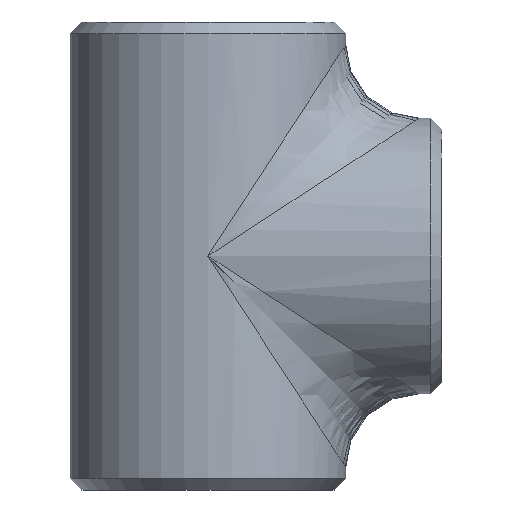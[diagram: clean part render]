
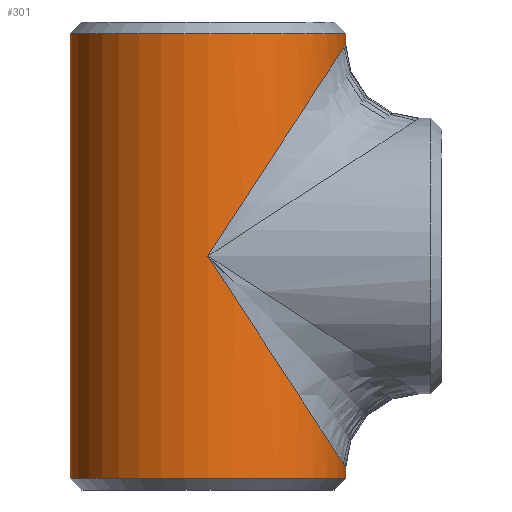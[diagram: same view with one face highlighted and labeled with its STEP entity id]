
A CAD part, front view. The second image highlights one B-rep face of the part: STEP entity #301.
In plain terms, the highlighted cylindrical face has radius 84.15 mm (diameter 168.3 mm), a partial arc.
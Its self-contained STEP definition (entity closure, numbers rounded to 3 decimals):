
#39 = CARTESIAN_POINT ( 'NONE',  ( 84.15, -49.294, -129.15 ) ) ;
#41 = VECTOR ( 'NONE', #403, 1000. ) ;
#50 = CARTESIAN_POINT ( 'NONE',  ( -84.15, 0., 142.9 ) ) ;
#57 = DIRECTION ( 'NONE',  ( 0., 0., -1. ) ) ;
#75 = CARTESIAN_POINT ( 'NONE',  ( 84.15, 0., 142.9 ) ) ;
#131 = CARTESIAN_POINT ( 'NONE',  ( 84.15, 0., -129.15 ) ) ;
#141 = CARTESIAN_POINT ( 'NONE',  ( -84.15, 0., -135.84 ) ) ;
#145 = ORIENTED_EDGE ( 'NONE', *, *, #1207, .T. ) ;
#158 = DIRECTION ( 'NONE',  ( 0., 0., -1. ) ) ;
#163 = VECTOR ( 'NONE', #158, 1000. ) ;
#173 = DIRECTION ( 'NONE',  ( 1., 0., 0. ) ) ;
#179 = CARTESIAN_POINT ( 'NONE',  ( -84.15, 0., 135.84 ) ) ;
#184 = CARTESIAN_POINT ( 'NONE',  ( 0., -84.15, 0. ) ) ;
#239 = VECTOR ( 'NONE', #1443, 1000. ) ;
#287 = CARTESIAN_POINT ( 'NONE',  ( 0., 0., -135.84 ) ) ;
#289 = CARTESIAN_POINT ( 'NONE',  ( 84.15, 0., 129.15 ) ) ;
#301 = ADVANCED_FACE ( 'NONE', ( #705 ), #716, .T. ) ;
#325 = EDGE_CURVE ( 'NONE', #479, #1387, #340, .T. ) ;
#328 = AXIS2_PLACEMENT_3D ( 'NONE', #1304, #948, #594 ) ;
#340 =( BOUNDED_CURVE ( )  B_SPLINE_CURVE ( 3, ( #131, #39, #1048, #819 ),
 .UNSPECIFIED., .F., .T. ) 
 B_SPLINE_CURVE_WITH_KNOTS ( ( 4, 4 ),
 ( 3.142, 4.712 ),
 .UNSPECIFIED. ) 
 CURVE ( )  GEOMETRIC_REPRESENTATION_ITEM ( )  RATIONAL_B_SPLINE_CURVE ( ( 1., 0.805, 0.805, 1. ) ) 
 REPRESENTATION_ITEM ( '' )  );
#374 = VERTEX_POINT ( 'NONE', #141 ) ;
#398 = ORIENTED_EDGE ( 'NONE', *, *, #1130, .T. ) ;
#403 = DIRECTION ( 'NONE',  ( 0., 0., -1. ) ) ;
#412 = ORIENTED_EDGE ( 'NONE', *, *, #325, .T. ) ;
#421 = CARTESIAN_POINT ( 'NONE',  ( 84.15, -49.294, 129.15 ) ) ;
#438 = ORIENTED_EDGE ( 'NONE', *, *, #454, .F. ) ;
#454 = EDGE_CURVE ( 'NONE', #479, #548, #1433, .T. ) ;
#479 = VERTEX_POINT ( 'NONE', #884 ) ;
#480 = EDGE_CURVE ( 'NONE', #374, #548, #1472, .T. ) ;
#495 = ORIENTED_EDGE ( 'NONE', *, *, #480, .T. ) ;
#548 = VERTEX_POINT ( 'NONE', #868 ) ;
#567 = CARTESIAN_POINT ( 'NONE',  ( 84.15, 0., 129.15 ) ) ;
#594 = DIRECTION ( 'NONE',  ( -1., 0., 0. ) ) ;
#618 = ORIENTED_EDGE ( 'NONE', *, *, #718, .F. ) ;
#638 = VERTEX_POINT ( 'NONE', #179 ) ;
#705 = FACE_OUTER_BOUND ( 'NONE', #896, .T. ) ;
#710 = ORIENTED_EDGE ( 'NONE', *, *, #1180, .T. ) ;
#716 = CYLINDRICAL_SURFACE ( 'NONE', #328, 84.15 ) ;
#718 = EDGE_CURVE ( 'NONE', #816, #1404, #1211, .T. ) ;
#739 = DIRECTION ( 'NONE',  ( 0., 0., 1. ) ) ;
#748 = CARTESIAN_POINT ( 'NONE',  ( 0., 0., 135.84 ) ) ;
#789 = CARTESIAN_POINT ( 'NONE',  ( 0., -84.15, 0. ) ) ;
#816 = VERTEX_POINT ( 'NONE', #1342 ) ;
#819 = CARTESIAN_POINT ( 'NONE',  ( 0., -84.15, 0. ) ) ;
#832 = LINE ( 'NONE', #50, #163 ) ;
#851 = CIRCLE ( 'NONE', #903, 84.15 ) ;
#868 = CARTESIAN_POINT ( 'NONE',  ( 84.15, 0., -135.84 ) ) ;
#884 = CARTESIAN_POINT ( 'NONE',  ( 84.15, 0., -129.15 ) ) ;
#892 =( BOUNDED_CURVE ( )  B_SPLINE_CURVE ( 3, ( #184, #1332, #421, #289 ),
 .UNSPECIFIED., .F., .F. ) 
 B_SPLINE_CURVE_WITH_KNOTS ( ( 4, 4 ),
 ( 1.571, 3.142 ),
 .UNSPECIFIED. ) 
 CURVE ( )  GEOMETRIC_REPRESENTATION_ITEM ( )  RATIONAL_B_SPLINE_CURVE ( ( 1., 0.805, 0.805, 1. ) ) 
 REPRESENTATION_ITEM ( '' )  );
#896 = EDGE_LOOP ( 'NONE', ( #618, #710, #398, #495, #438, #412, #145 ) ) ;
#903 = AXIS2_PLACEMENT_3D ( 'NONE', #748, #57, #1306 ) ;
#948 = DIRECTION ( 'NONE',  ( 0., 0., -1. ) ) ;
#997 = AXIS2_PLACEMENT_3D ( 'NONE', #287, #739, #173 ) ;
#1048 = CARTESIAN_POINT ( 'NONE',  ( 49.294, -84.15, -75.654 ) ) ;
#1130 = EDGE_CURVE ( 'NONE', #638, #374, #832, .T. ) ;
#1180 = EDGE_CURVE ( 'NONE', #816, #638, #851, .T. ) ;
#1207 = EDGE_CURVE ( 'NONE', #1387, #1404, #892, .T. ) ;
#1211 = LINE ( 'NONE', #75, #239 ) ;
#1304 = CARTESIAN_POINT ( 'NONE',  ( 0., 0., 142.9 ) ) ;
#1306 = DIRECTION ( 'NONE',  ( 1., 0., 0. ) ) ;
#1313 = CARTESIAN_POINT ( 'NONE',  ( 84.15, 0., 142.9 ) ) ;
#1332 = CARTESIAN_POINT ( 'NONE',  ( 49.294, -84.15, 75.654 ) ) ;
#1342 = CARTESIAN_POINT ( 'NONE',  ( 84.15, 0., 135.84 ) ) ;
#1387 = VERTEX_POINT ( 'NONE', #789 ) ;
#1404 = VERTEX_POINT ( 'NONE', #567 ) ;
#1433 = LINE ( 'NONE', #1313, #41 ) ;
#1443 = DIRECTION ( 'NONE',  ( 0., 0., -1. ) ) ;
#1472 = CIRCLE ( 'NONE', #997, 84.15 ) ;
